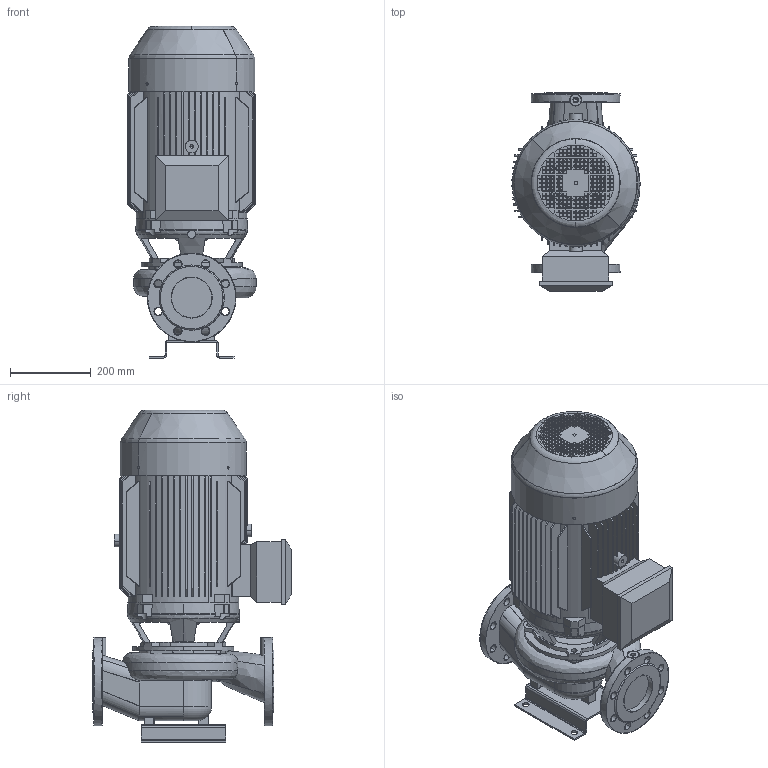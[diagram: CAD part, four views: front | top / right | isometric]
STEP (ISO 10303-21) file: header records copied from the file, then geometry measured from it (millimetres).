
FILE_DESCRIPTION(('STEP AP214'),'1');
FILE_NAME('export.stp','2018-05-28T10:05:56',(' '),(' '),'Spatial InterOp 3D',' ',' ');
FILE_SCHEMA(('AUTOMOTIVE_DESIGN { 1 0 10303 214 1 1 1 1 }'));
Length unit declared in the file: millimetre
Products named in the file (10): W_AL11022130KP166; V_TLL65AB80A1102; V_PPAL1102; V_JALKA35973; V_MKP166-H1-F21; R200574; R201257; R200641; R200587; R201384
Assembly tree (9 placements, depth 3):
  W_AL11022130KP166
    V_TLL65AB80A1102
    V_PPAL1102
    V_JALKA35973
    V_MKP166-H1-F21
      R200574
      R201257
      R200641
      R200587
      R201384
Bounding box: 318.5 x 493 x 824 mm (x, y, z)
Volume: 10784611.4 mm3; surface area: 3601055.3 mm2
Topology: 8 solids, 8 shells, 1946 faces, 5665 edges, 3734 vertices
Faces by surface type: plane 1257, cylinder 403, cone 168, torus 78, bspline 32, offset 8
Entity records: 93918 total; most frequent: CARTESIAN_POINT 22344, ORIENTED_EDGE 11274, DIRECTION 10086, EDGE_CURVE 5637, VERTEX_POINT 3734, LINE 3608, VECTOR 3608, AXIS2_PLACEMENT_3D 3239
